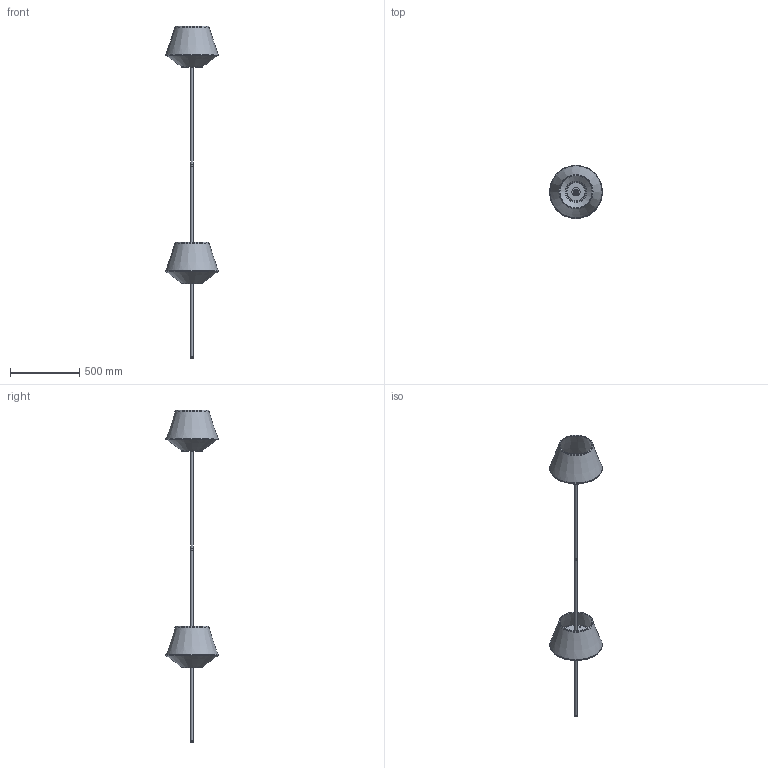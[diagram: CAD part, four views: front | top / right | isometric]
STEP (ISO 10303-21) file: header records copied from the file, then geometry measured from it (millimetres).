
FILE_DESCRIPTION( ( 'STEP AP203' ), '1' );
FILE_NAME( '//srvbf/BF Disegni/Z (LIBRERIA)/STRUTTURE LUMETTI PIANTANE/SINO-P Piantana 3D.stp', '2020-10-15T12:54:54', ( ' ' ), ( ' ' ), 'XStep 1.0', ' ', ' ' );
FILE_SCHEMA( ( 'CONFIG_CONTROL_DESIGN) ( )' ) );
Length unit declared in the file: metre
Products named in the file (13): Assem1; 1; 2; 3; 4; 5; 6; 7; 8; 9; 10; 11; 12
Bounding box: 382 x 382 x 2403 mm (x, y, z)
Volume: 1052859.9 mm3; surface area: 2184132.4 mm2
Topology: 24 solids, 24 shells, 114 faces, 206 edges, 136 vertices
Faces by surface type: plane 44, cone 32, cylinder 28, torus 10
Full cylindrical faces by diameter (mm): 5 x6, 8.917 x4, 10 x4, 16.8 x4, 17 x2, 20 x2, 40 x2, 60 x2, 250 x2
Entity records: 1946 total; most frequent: CARTESIAN_POINT 334, DIRECTION 252, AXIS2_PLACEMENT_3D 126, EDGE_LOOP 116, ORIENTED_EDGE 116, FACE_OUTER_BOUND 70, CC_DESIGN_PERSON_AND_ORGANIZATION_ASSIGNMENT 65, EDGE_CURVE 58
